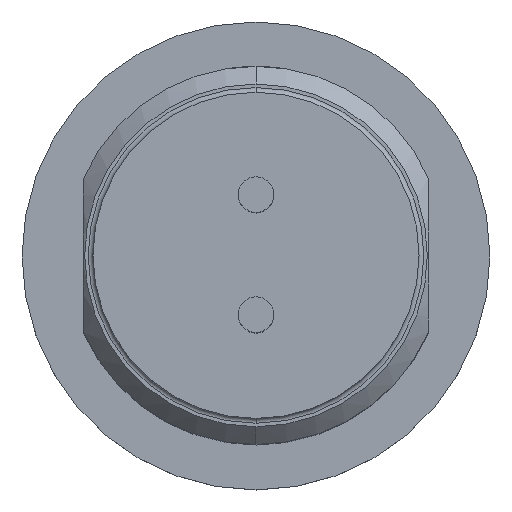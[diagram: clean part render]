
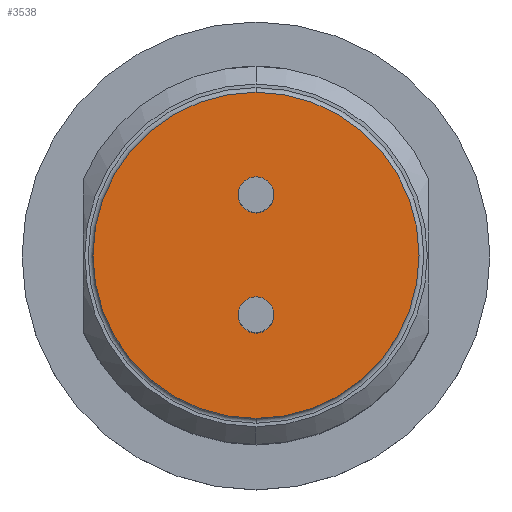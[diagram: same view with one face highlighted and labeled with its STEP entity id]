
A CAD part, top view. The second image highlights one B-rep face of the part: STEP entity #3538.
In plain terms, the highlighted planar face has unit normal (0, 0, 1).
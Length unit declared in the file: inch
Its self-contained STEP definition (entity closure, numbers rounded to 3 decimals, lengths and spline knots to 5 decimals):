
#1080=CARTESIAN_POINT('',(0.,0.,0.20866));
#1081=DIRECTION('',(0.,0.,-1.));
#1082=DIRECTION('',(0.,1.,0.));
#1083=AXIS2_PLACEMENT_3D('',#1080,#1081,#1082);
#1094=CARTESIAN_POINT('',(0.,0.,0.20866));
#1095=DIRECTION('',(0.,0.,1.));
#1096=DIRECTION('',(0.,1.,0.));
#1097=AXIS2_PLACEMENT_3D('',#1094,#1095,#1096);
#1103=CARTESIAN_POINT('',(0.,0.1,0.20866));
#1104=DIRECTION('',(0.,0.,1.));
#1105=DIRECTION('',(0.,1.,0.));
#1106=AXIS2_PLACEMENT_3D('',#1103,#1104,#1105);
#1108=CARTESIAN_POINT('',(0.,0.1,0.20866));
#1109=DIRECTION('',(0.,0.,1.));
#1110=DIRECTION('',(0.,-1.,0.));
#1111=AXIS2_PLACEMENT_3D('',#1108,#1109,#1110);
#1113=CARTESIAN_POINT('',(0.,-0.1,0.20866));
#1114=DIRECTION('',(0.,0.,1.));
#1115=DIRECTION('',(0.,-1.,0.));
#1116=AXIS2_PLACEMENT_3D('',#1113,#1114,#1115);
#1118=CARTESIAN_POINT('',(0.,-0.1,0.20866));
#1119=DIRECTION('',(0.,0.,1.));
#1120=DIRECTION('',(0.,1.,0.));
#1121=AXIS2_PLACEMENT_3D('',#1118,#1119,#1120);
#1779=CARTESIAN_POINT('',(0.,0.27165,0.20866));
#1780=CARTESIAN_POINT('',(0.,-0.27165,0.20866));
#1781=VERTEX_POINT('',#1779);
#1782=VERTEX_POINT('',#1780);
#2186=CARTESIAN_POINT('',(0.,0.12953,0.20866));
#2187=CARTESIAN_POINT('',(0.,0.07047,0.20866));
#2188=VERTEX_POINT('',#2186);
#2189=VERTEX_POINT('',#2187);
#2194=CARTESIAN_POINT('',(0.,-0.12953,0.20866));
#2195=CARTESIAN_POINT('',(0.,-0.07047,0.20866));
#2196=VERTEX_POINT('',#2194);
#2197=VERTEX_POINT('',#2195);
#3517=CARTESIAN_POINT('',(0.,0.,0.20866));
#3518=DIRECTION('',(0.,0.,-1.));
#3519=DIRECTION('',(0.,1.,0.));
#3520=AXIS2_PLACEMENT_3D('',#3517,#3518,#3519);
#3521=PLANE('',#3520);
#3522=ORIENTED_EDGE('',*,*,#3511,.F.);
#3523=ORIENTED_EDGE('',*,*,#3497,.T.);
#3524=EDGE_LOOP('',(#3522,#3523));
#3525=FACE_OUTER_BOUND('',#3524,.F.);
#3527=ORIENTED_EDGE('',*,*,#3526,.T.);
#3529=ORIENTED_EDGE('',*,*,#3528,.T.);
#3530=EDGE_LOOP('',(#3527,#3529));
#3531=FACE_BOUND('',#3530,.F.);
#3533=ORIENTED_EDGE('',*,*,#3532,.T.);
#3535=ORIENTED_EDGE('',*,*,#3534,.T.);
#3536=EDGE_LOOP('',(#3533,#3535));
#3537=FACE_BOUND('',#3536,.F.);
#1084=CIRCLE('',#1083,0.27165);
#1098=CIRCLE('',#1097,0.27165);
#1107=CIRCLE('',#1106,0.02953);
#1112=CIRCLE('',#1111,0.02953);
#1117=CIRCLE('',#1116,0.02953);
#1122=CIRCLE('',#1121,0.02953);
#3497=EDGE_CURVE('',#1781,#1782,#1084,.T.);
#3511=EDGE_CURVE('',#1781,#1782,#1098,.T.);
#3526=EDGE_CURVE('',#2188,#2189,#1107,.T.);
#3528=EDGE_CURVE('',#2189,#2188,#1112,.T.);
#3532=EDGE_CURVE('',#2196,#2197,#1117,.T.);
#3534=EDGE_CURVE('',#2197,#2196,#1122,.T.);
#3538=ADVANCED_FACE('',(#3525,#3531,#3537),#3521,.F.);
